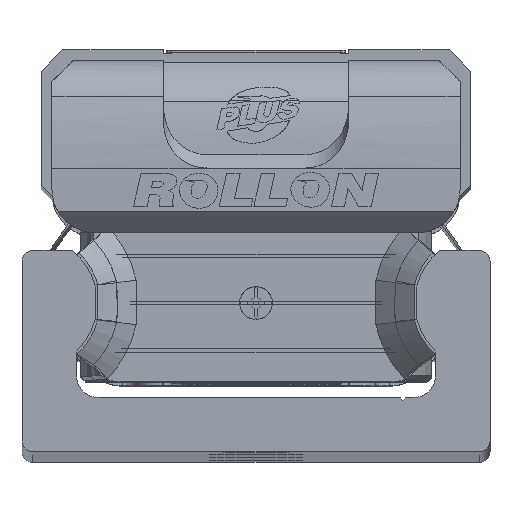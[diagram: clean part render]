
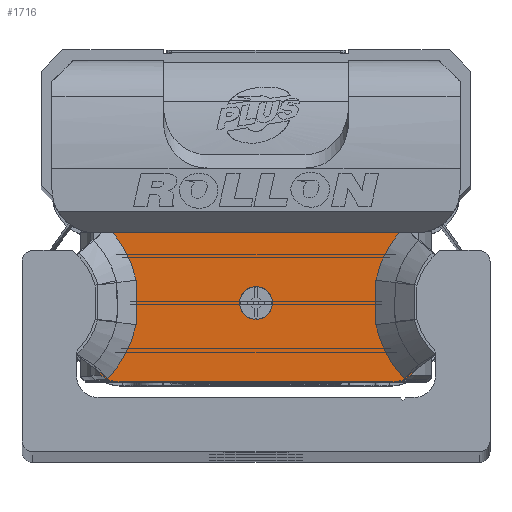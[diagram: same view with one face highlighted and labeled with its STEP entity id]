
A CAD part, top view. The second image highlights one B-rep face of the part: STEP entity #1716.
In plain terms, the highlighted planar face has unit normal (0, 0, 1) as drawn and (0, 0, -1) by its records, which use the part's own axes.
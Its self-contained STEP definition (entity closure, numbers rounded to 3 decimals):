
#1716 = ADVANCED_FACE( '', ( #3666, #3667 ), #3668, .F. );
#3666 = FACE_BOUND( '', #5944, .T. );
#3667 = FACE_OUTER_BOUND( '', #5945, .T. );
#3668 = PLANE( '', #5946 );
#5944 = EDGE_LOOP( '', ( #10548 ) );
#5945 = EDGE_LOOP( '', ( #10549, #10550, #10551, #10552, #10553, #10554, #10555, #10556, #10557, #10558, #10559, #10560 ) );
#5946 = AXIS2_PLACEMENT_3D( '', #10561, #10562, #10563 );
#10548 = ORIENTED_EDGE( '', *, *, #14168, .T. );
#10549 = ORIENTED_EDGE( '', *, *, #13141, .T. );
#10550 = ORIENTED_EDGE( '', *, *, #14169, .F. );
#10551 = ORIENTED_EDGE( '', *, *, #12840, .T. );
#10552 = ORIENTED_EDGE( '', *, *, #12776, .F. );
#10553 = ORIENTED_EDGE( '', *, *, #13866, .T. );
#10554 = ORIENTED_EDGE( '', *, *, #12698, .T. );
#10555 = ORIENTED_EDGE( '', *, *, #14170, .T. );
#10556 = ORIENTED_EDGE( '', *, *, #12607, .T. );
#10557 = ORIENTED_EDGE( '', *, *, #13439, .T. );
#10558 = ORIENTED_EDGE( '', *, *, #13111, .T. );
#10559 = ORIENTED_EDGE( '', *, *, #12890, .T. );
#10560 = ORIENTED_EDGE( '', *, *, #14159, .T. );
#10561 = CARTESIAN_POINT( '', ( 14.9, 7.35, -13.25 ) );
#10562 = DIRECTION( '', ( 0., 0., 1. ) );
#10563 = DIRECTION( '', ( 1., 0., 0. ) );
#12607 = EDGE_CURVE( '', #15048, #15045, #15049, .T. );
#12698 = EDGE_CURVE( '', #15210, #15208, #15211, .T. );
#12776 = EDGE_CURVE( '', #15283, #15342, #15343, .T. );
#12840 = EDGE_CURVE( '', #15455, #15342, #15456, .T. );
#12890 = EDGE_CURVE( '', #15542, #15540, #15543, .T. );
#13111 = EDGE_CURVE( '', #15906, #15542, #15911, .T. );
#13141 = EDGE_CURVE( '', #15961, #15014, #15962, .T. );
#13439 = EDGE_CURVE( '', #15045, #15906, #16427, .T. );
#13866 = EDGE_CURVE( '', #15283, #15210, #17017, .T. );
#14159 = EDGE_CURVE( '', #15540, #15961, #17403, .T. );
#14168 = EDGE_CURVE( '', #17414, #17414, #17415, .T. );
#14169 = EDGE_CURVE( '', #15455, #15014, #17416, .T. );
#14170 = EDGE_CURVE( '', #15208, #15048, #17417, .T. );
#15014 = VERTEX_POINT( '', #18476 );
#15045 = VERTEX_POINT( '', #18561 );
#15048 = VERTEX_POINT( '', #18567 );
#15049 = B_SPLINE_CURVE_WITH_KNOTS( '', 2, ( #18568, #18569, #18570, #18571, #18572 ), .UNSPECIFIED., .F., .F., ( 3, 2, 3 ), ( 0., 0.5, 0.868 ), .UNSPECIFIED. );
#15208 = VERTEX_POINT( '', #18779 );
#15210 = VERTEX_POINT( '', #18782 );
#15211 = B_SPLINE_CURVE_WITH_KNOTS( '', 2, ( #18783, #18784, #18785, #18786, #18787 ), .UNSPECIFIED., .F., .F., ( 3, 2, 3 ), ( 0., 0.5, 1. ), .UNSPECIFIED. );
#15283 = VERTEX_POINT( '', #18880 );
#15342 = VERTEX_POINT( '', #18960 );
#15343 = CIRCLE( '', #18961, 2.5 );
#15455 = VERTEX_POINT( '', #19152 );
#15456 = LINE( '', #19153, #19154 );
#15540 = VERTEX_POINT( '', #19269 );
#15542 = VERTEX_POINT( '', #19272 );
#15543 = B_SPLINE_CURVE_WITH_KNOTS( '', 2, ( #19273, #19274, #19275 ), .UNSPECIFIED., .F., .F., ( 3, 3 ), ( 0., 1. ), .UNSPECIFIED. );
#15906 = VERTEX_POINT( '', #19867 );
#15911 = B_SPLINE_CURVE_WITH_KNOTS( '', 2, ( #19879, #19880, #19881, #19882, #19883 ), .UNSPECIFIED., .F., .F., ( 3, 2, 3 ), ( 0.133, 0.5, 1. ), .UNSPECIFIED. );
#15961 = VERTEX_POINT( '', #19956 );
#15962 = B_SPLINE_CURVE_WITH_KNOTS( '', 1, ( #19957, #19958 ), .UNSPECIFIED., .F., .F., ( 2, 2 ), ( 0., 1. ), .UNSPECIFIED. );
#16427 = LINE( '', #20587, #20588 );
#17017 = B_SPLINE_CURVE_WITH_KNOTS( '', 1, ( #21401, #21402 ), .UNSPECIFIED., .F., .F., ( 2, 2 ), ( 0., 1. ), .UNSPECIFIED. );
#17403 = B_SPLINE_CURVE_WITH_KNOTS( '', 2, ( #21938, #21939, #21940, #21941, #21942 ), .UNSPECIFIED., .F., .F., ( 3, 2, 3 ), ( 0., 0.5, 1. ), .UNSPECIFIED. );
#17414 = VERTEX_POINT( '', #21957 );
#17415 = CIRCLE( '', #21958, 1.5 );
#17416 = CIRCLE( '', #21959, 2.5 );
#17417 = B_SPLINE_CURVE_WITH_KNOTS( '', 2, ( #21960, #21961, #21962 ), .UNSPECIFIED., .F., .F., ( 3, 3 ), ( 0., 1. ), .UNSPECIFIED. );
#18476 = CARTESIAN_POINT( '', ( 14.906, -5.717, -13.25 ) );
#18561 = CARTESIAN_POINT( '', ( -13.119, 6.4, -13.25 ) );
#18567 = CARTESIAN_POINT( '', ( -11.012, 2.045, -13.25 ) );
#18568 = CARTESIAN_POINT( '', ( -11.012, 2.045, -13.25 ) );
#18569 = CARTESIAN_POINT( '', ( -11.302, 3.432, -13.25 ) );
#18570 = CARTESIAN_POINT( '', ( -11.967, 4.685, -13.25 ) );
#18571 = CARTESIAN_POINT( '', ( -12.456, 5.606, -13.25 ) );
#18572 = CARTESIAN_POINT( '', ( -13.119, 6.4, -13.25 ) );
#18779 = CARTESIAN_POINT( '', ( -11.012, -2.045, -13.25 ) );
#18782 = CARTESIAN_POINT( '', ( -13.628, -6.965, -13.25 ) );
#18783 = CARTESIAN_POINT( '', ( -13.628, -6.965, -13.25 ) );
#18784 = CARTESIAN_POINT( '', ( -12.638, -5.946, -13.25 ) );
#18785 = CARTESIAN_POINT( '', ( -11.97, -4.691, -13.25 ) );
#18786 = CARTESIAN_POINT( '', ( -11.303, -3.437, -13.25 ) );
#18787 = CARTESIAN_POINT( '', ( -11.012, -2.045, -13.25 ) );
#18880 = CARTESIAN_POINT( '', ( -14.904, -5.718, -13.25 ) );
#18960 = CARTESIAN_POINT( '', ( -12.58, -7.3, -13.25 ) );
#18961 = AXIS2_PLACEMENT_3D( '', #23104, #23105, #23106 );
#19152 = CARTESIAN_POINT( '', ( 12.58, -7.3, -13.25 ) );
#19153 = CARTESIAN_POINT( '', ( 12.58, -7.3, -13.25 ) );
#19154 = VECTOR( '', #23207, 1000. );
#19269 = CARTESIAN_POINT( '', ( 11.012, -2.045, -13.25 ) );
#19272 = CARTESIAN_POINT( '', ( 11.012, 2.045, -13.25 ) );
#19273 = CARTESIAN_POINT( '', ( 11.012, 2.045, -13.25 ) );
#19274 = CARTESIAN_POINT( '', ( 10.888, 0., -13.25 ) );
#19275 = CARTESIAN_POINT( '', ( 11.012, -2.045, -13.25 ) );
#19867 = CARTESIAN_POINT( '', ( 13.12, 6.4, -13.25 ) );
#19879 = CARTESIAN_POINT( '', ( 13.119, 6.4, -13.25 ) );
#19880 = CARTESIAN_POINT( '', ( 12.459, 5.608, -13.25 ) );
#19881 = CARTESIAN_POINT( '', ( 11.968, 4.684, -13.25 ) );
#19882 = CARTESIAN_POINT( '', ( 11.301, 3.427, -13.25 ) );
#19883 = CARTESIAN_POINT( '', ( 11.012, 2.045, -13.25 ) );
#19956 = CARTESIAN_POINT( '', ( 13.628, -6.965, -13.25 ) );
#19957 = CARTESIAN_POINT( '', ( 13.628, -6.965, -13.25 ) );
#19958 = CARTESIAN_POINT( '', ( 14.9, -5.728, -13.25 ) );
#20587 = CARTESIAN_POINT( '', ( 14.9, 6.4, -13.25 ) );
#20588 = VECTOR( '', #23972, 1000. );
#21401 = CARTESIAN_POINT( '', ( -14.915, -5.713, -13.25 ) );
#21402 = CARTESIAN_POINT( '', ( -13.628, -6.965, -13.25 ) );
#21938 = CARTESIAN_POINT( '', ( 11.012, -2.045, -13.25 ) );
#21939 = CARTESIAN_POINT( '', ( 11.301, -3.43, -13.25 ) );
#21940 = CARTESIAN_POINT( '', ( 11.972, -4.69, -13.25 ) );
#21941 = CARTESIAN_POINT( '', ( 12.642, -5.95, -13.25 ) );
#21942 = CARTESIAN_POINT( '', ( 13.628, -6.965, -13.25 ) );
#21957 = CARTESIAN_POINT( '', ( 1.5, -0.05, -13.25 ) );
#21958 = AXIS2_PLACEMENT_3D( '', #24871, #24872, #24873 );
#21959 = AXIS2_PLACEMENT_3D( '', #24874, #24875, #24876 );
#21960 = CARTESIAN_POINT( '', ( -11.012, -2.045, -13.25 ) );
#21961 = CARTESIAN_POINT( '', ( -10.888, 0., -13.25 ) );
#21962 = CARTESIAN_POINT( '', ( -11.012, 2.045, -13.25 ) );
#23104 = CARTESIAN_POINT( '', ( -12.58, -4.8, -13.25 ) );
#23105 = DIRECTION( '', ( 0., 0., 1. ) );
#23106 = DIRECTION( '', ( 1., 0., 0. ) );
#23207 = DIRECTION( '', ( -1., 0., 0. ) );
#23972 = DIRECTION( '', ( 1., 0., 0. ) );
#24871 = CARTESIAN_POINT( '', ( 0., -0.05, -13.25 ) );
#24872 = DIRECTION( '', ( 0., 0., 1. ) );
#24873 = DIRECTION( '', ( 1., 0., 0. ) );
#24874 = CARTESIAN_POINT( '', ( 12.58, -4.8, -13.25 ) );
#24875 = DIRECTION( '', ( 0., 0., 1. ) );
#24876 = DIRECTION( '', ( 1., 0., 0. ) );
